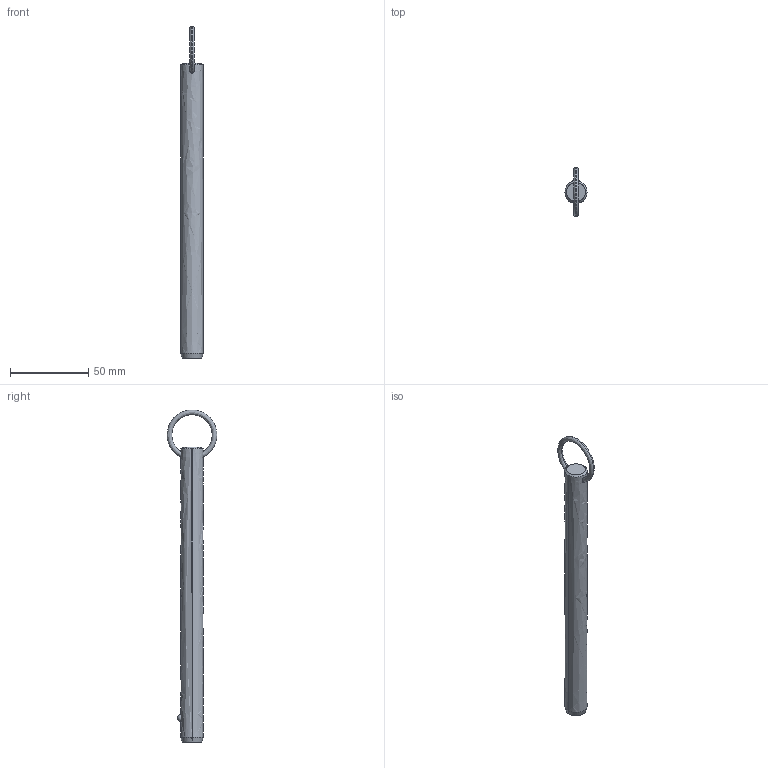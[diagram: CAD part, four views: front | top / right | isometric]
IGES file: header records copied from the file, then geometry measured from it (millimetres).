
Start section: SolidWorks IGES file using analytic representation for surfaces
Global section: file name: C:\Users\liam_\OneDrive\Documents\WORK\Work for WixRoyd\Job Files\J-00019 - Matt Davis CAD Checking\04. CAD Drawings\automotion20190605\P1250.2_v2\P1250.2_v2_20190729_IGES\P1250.056-640.igs; native system: SolidWorks 2017; preprocessor: SolidWorks 2017; author: liam_; date: 190729.232758; units: millimetre
Bounding box: 14.2 x 31.68 x 211.7 mm (x, y, z)
Surface area: 9348.2 mm2 (no closed solid volume)
Topology: 0 solids, 0 shells, 12 faces, 285 edges, 283 vertices
Faces by surface type: revolution 8, bspline 4
